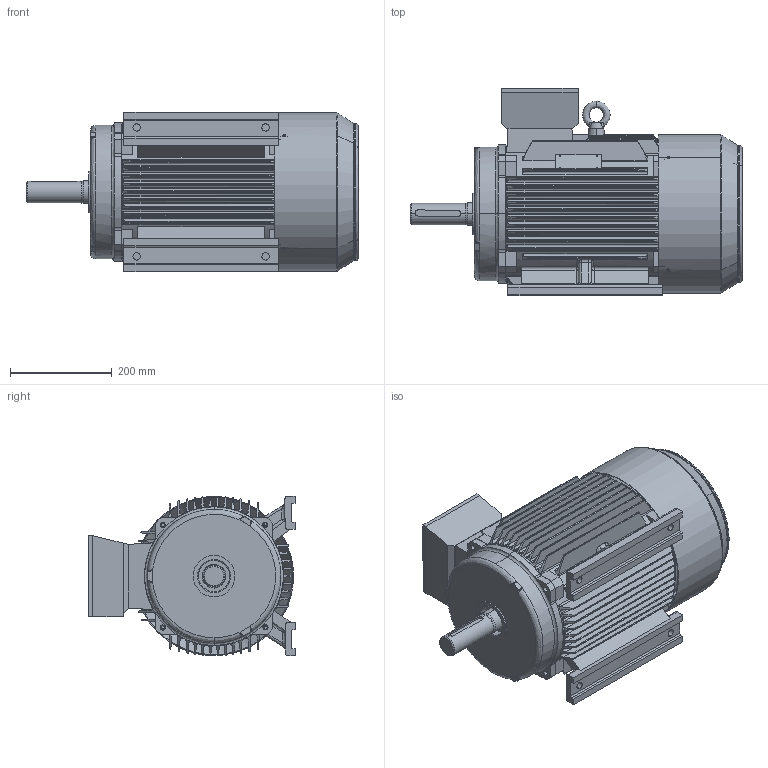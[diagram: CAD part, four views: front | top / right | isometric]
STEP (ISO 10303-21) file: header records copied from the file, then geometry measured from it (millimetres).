
FILE_DESCRIPTION (( 'STEP AP214' ), '1' );
FILE_NAME ('160L-FF-B3.STEP', '2019-03-20T07:37:55', ( '' ), ( '' ), 'SwSTEP 2.0', 'SolidWorks 2012', '' );
FILE_SCHEMA (( 'AUTOMOTIVE_DESIGN' ));
Length unit declared in the file: millimetre
Products named in the file (11): Eyebolts GB_GB_FASTENER_SCREWS_FRS M12-N_1; Y2-160-2ｦｾﾂ-ｩﾃ_-ｼ+､; ﾎｦ+ﾕY2-160ﾍﾟ+ｦ-ﾃｦﾂ-ｩﾃ_-ｼ+､; Y2-160-2ﾃｦﾂ-ｩﾃ_-ｼ+､; Y2-160_shaft; ﾎｦ+ﾕY2-160､ｯｦ-ｼ+､; Y2-160､ｯｦｨ_-ｼ+､; Y2-160-180､ｯｦﾃ_-ｼ+､; Y2-160L+ｷﾎｨ(B3)_-ｼ+､; ﾀiﾍMN2-160_-ｼ+､; 160L-FF-B3
Assembly tree (10 placements, depth 3):
  160L-FF-B3
    ﾀiﾍMN2-160_-ｼ+､
    Y2-160L+ｷﾎｨ(B3)_-ｼ+､
    ﾎｦ+ﾕY2-160､ｯｦ-ｼ+､
      Y2-160-180､ｯｦﾃ_-ｼ+､
      Y2-160､ｯｦｨ_-ｼ+､
    ﾎｦ+ﾕY2-160ﾍﾟ+ｦ-ﾃｦﾂ-ｩﾃ_-ｼ+､
      Y2-160_shaft
      Y2-160-2ﾃｦﾂ-ｩﾃ_-ｼ+､
    Y2-160-2ｦｾﾂ-ｩﾃ_-ｼ+､
    Eyebolts GB_GB_FASTENER_SCREWS_FRS M12-N_1
Bounding box: 654 x 407.47 x 314.24 mm (x, y, z)
Volume: 9109570.8 mm3; surface area: 2299679.9 mm2
Topology: 8 solids, 8 shells, 1244 faces, 3309 edges, 2092 vertices
Faces by surface type: cylinder 551, plane 404, bspline 235, cone 54
Entity records: 76096 total; most frequent: CARTESIAN_POINT 48184, ORIENTED_EDGE 6514, DIRECTION 4385, EDGE_CURVE 3257, VERTEX_POINT 2092, AXIS2_PLACEMENT_3D 1525, EDGE_LOOP 1417, B_SPLINE_CURVE_WITH_KNOTS 1385
